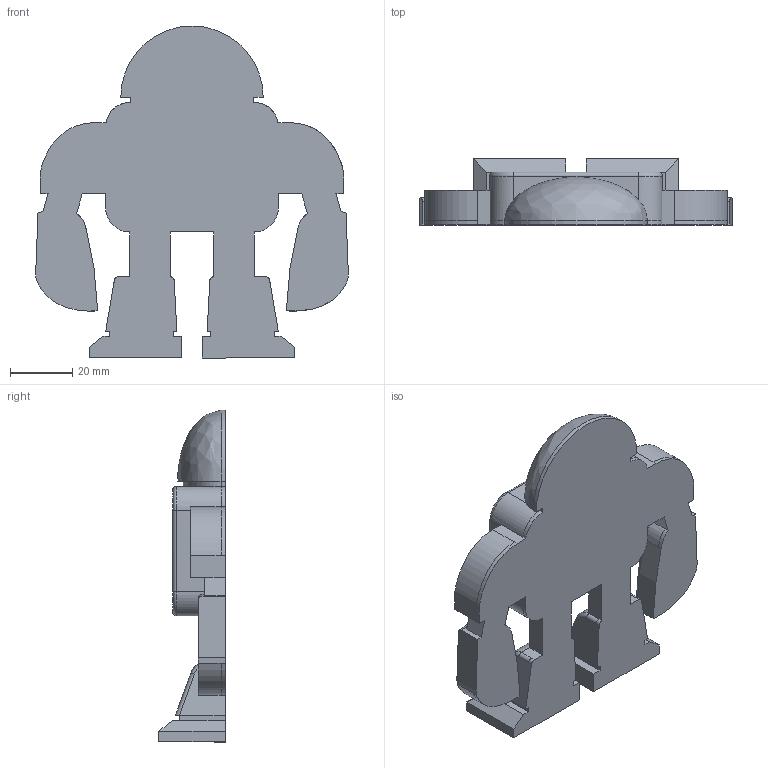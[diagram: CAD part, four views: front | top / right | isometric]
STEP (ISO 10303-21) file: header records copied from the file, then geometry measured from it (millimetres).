
FILE_DESCRIPTION(/* description */ (''),/* implementation_level */ '2;1');
FILE_NAME(/* name */ 'Makey Side 2',/* time_stamp */ '2025-12-22T13:02:48-05:00',/* author */ (''),/* organization */ (''),/* preprocessor_version */ 'ST-DEVELOPER v19.2',/* originating_system */ 'Rhino 8.14',/* authorisation */ '');
FILE_SCHEMA (('CONFIG_CONTROL_DESIGN'));
Length unit declared in the file: inch
Products named in the file (1): Document
Bounding box: 100.38 x 21.35 x 106.6 mm (x, y, z)
Volume: 87011.2 mm3; surface area: 22509.7 mm2
Topology: 1 solids, 1 shells, 131 faces, 359 edges, 229 vertices
Faces by surface type: plane 71, cylinder 33, bspline 27
Entity records: 4471 total; most frequent: CARTESIAN_POINT 1964, ORIENTED_EDGE 716, EDGE_CURVE 358, B_SPLINE_CURVE_WITH_KNOTS 293, VERTEX_POINT 229, DIRECTION 148, ADVANCED_FACE 131, FACE_OUTER_BOUND 131
